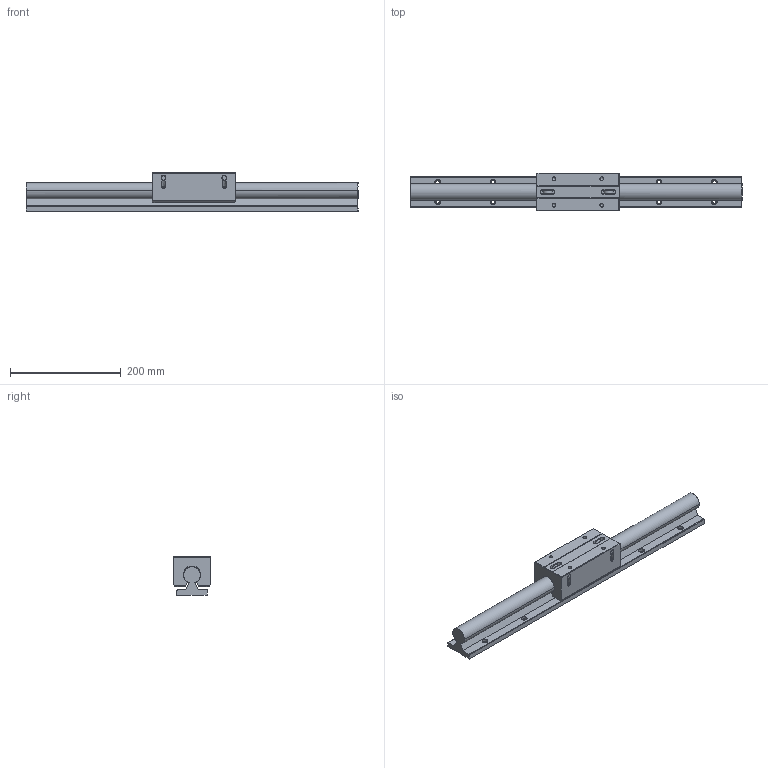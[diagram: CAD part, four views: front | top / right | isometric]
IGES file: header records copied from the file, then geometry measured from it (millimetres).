
Global section: file name: No Iges File Name specified; native system: AutoDesk Inventor R10; preprocessor: AutoDesk Inventor Iges Exporter R10; author: No Author specified; organization: No Organization specified; date: 20101222.161129; units: millimetre
Bounding box: 600 x 68 x 70 mm (x, y, z)
Surface area: 200301.9 mm2 (no closed solid volume)
Topology: 0 solids, 0 shells, 354 faces, 2628 edges, 2608 vertices
Faces by surface type: bspline 354
